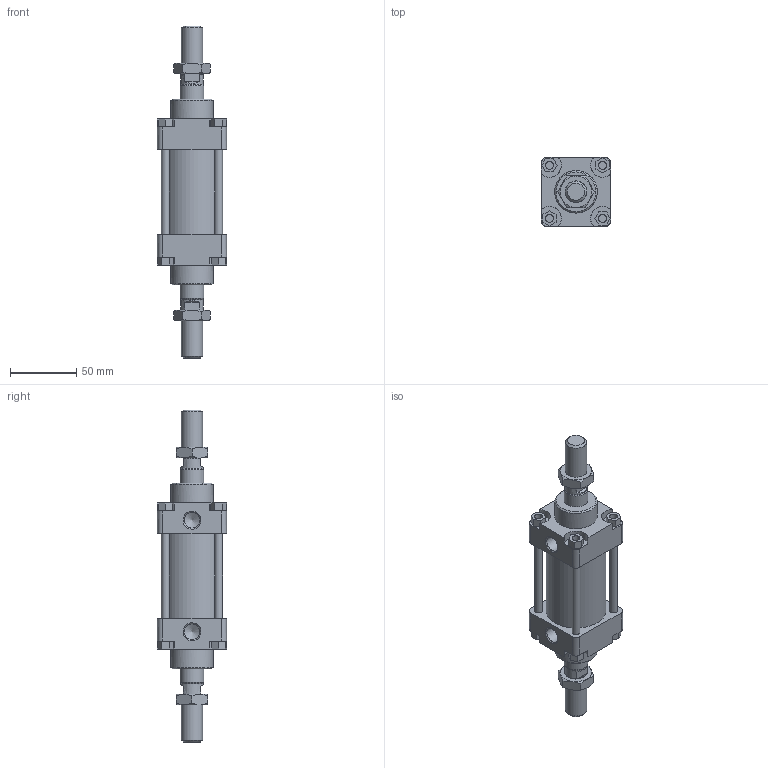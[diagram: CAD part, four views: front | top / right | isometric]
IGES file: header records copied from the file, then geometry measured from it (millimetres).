
Global section: file name: 1303_040_0000_02A; native system: Autodesk Inventor 2014; preprocessor: unknown; author: A. Manieri; date: 20161123.144138; units: millimetre
Bounding box: 52 x 52 x 250 mm (x, y, z)
Volume: 271458.4 mm3; surface area: 78488 mm2
Topology: 10 solids, 10 shells, 189 faces, 471 edges, 314 vertices
Faces by surface type: bspline 189
